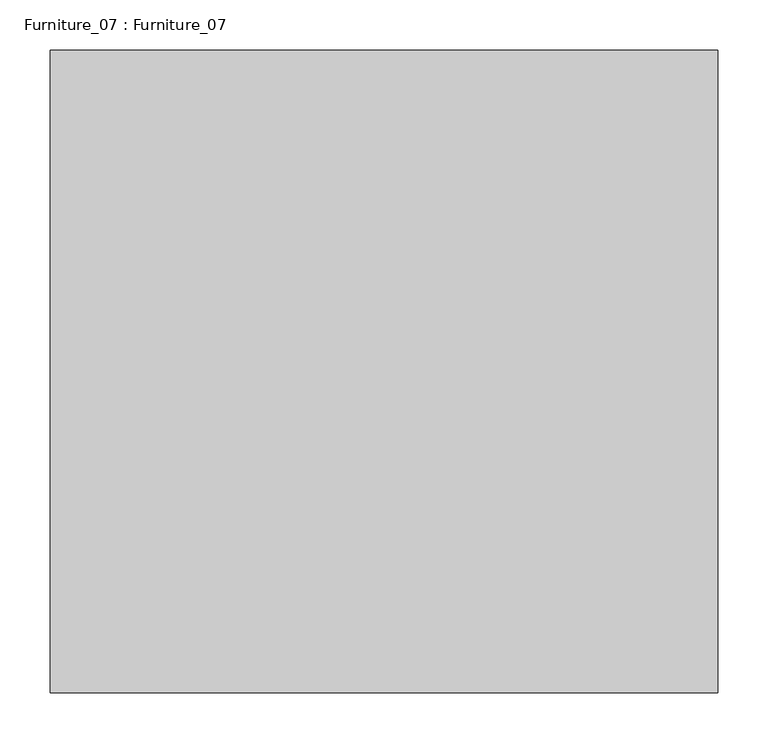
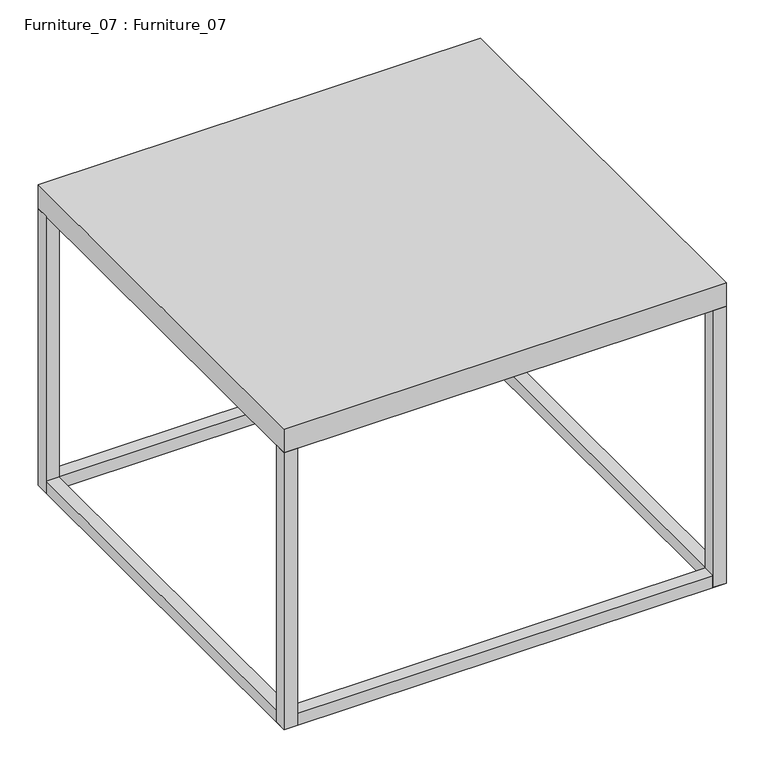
"""IFC4 building model written with IfcOpenShell, lengths in millimetres: furniture geometry, Furniture_07 : Furniture_07."""

from ifc_helpers import new_model, si_unit, frame, origin, origin_with_axes, place, context, project, spatial, polyline, outline, extrude, source, transform, mapped, element, save


def furniture_07_furniture_07_b3681a4d(model_context):
    return source(origin(), model_context, "Body", "SweptSolid", [
        extrude(outline(polyline([(-312.5, 320.0), (-312.5, 300.0), (-332.5, 300.0), (-332.5, 320.0), (-312.5, 320.0)])), origin_with_axes(), (0.0, 0.0, 1.0), 439.7246795),
        extrude(outline(polyline([(312.5, 320.0), (332.5, 320.0), (332.5, 300.0), (312.5, 300.0), (312.5, 320.0)])), origin_with_axes(), (0.0, 0.0, 1.0), 439.7246795),
        extrude(outline(polyline([(332.5, -300.0), (332.5, -320.0), (312.5, -320.0), (312.5, -300.0), (332.5, -300.0)])), origin_with_axes(), (0.0, 0.0, 1.0), 439.7246795),
        extrude(outline(polyline([(-332.5, -300.0), (-312.5, -300.0), (-312.5, -320.0), (-332.5, -320.0), (-332.5, -300.0)])), origin_with_axes(), (0.0, 0.0, 1.0), 439.7246795),
        extrude(outline(polyline([(332.5, 320.0), (332.5, -320.0), (-332.5, -320.0), (-332.5, 320.0), (332.5, 320.0)]), holes=[polyline([(312.5, 300.0), (-312.5, 300.0), (-312.5, -300.0), (312.5, -300.0), (312.5, 300.0)])]), origin_with_axes(), (0.0, 0.0, 1.0), 18.9938675),
        extrude(outline(polyline([(332.5, 320.0), (332.5, -320.0), (-332.5, -320.0), (-332.5, 320.0), (332.5, 320.0)])), frame((0.0, 0.0, 439.7246795), z_axis=(0.0, 0.0, 1.0), x_axis=(1.0, 0.0, 0.0)), (0.0, 0.0, 1.0), 37.7439025),
    ])


if __name__ == "__main__":
    model = new_model("IFC4")
    model_context = context("Model", 3, world=origin())
    ifc_project = project(units=[si_unit("LENGTHUNIT", "METRE", prefix="MILLI")], contexts=[model_context])
    site = spatial("IfcSite", under=ifc_project)
    building = spatial("IfcBuilding", under=site)
    placement = place(None, origin())
    furniture_07_furniture_07_shape = furniture_07_furniture_07_b3681a4d(model_context)
    element("IfcFurniture", 1, ObjectType="Furniture_07 : Furniture_07", at=placement, inside=building, context=model_context, shape_type="MappedRepresentation", body=[
        mapped(furniture_07_furniture_07_shape, transform((0.0, 0.0, 0.0), x_axis=(1.0, 0.0, 0.0), y_axis=(0.0, 1.0, 0.0), z_axis=(0.0, 0.0, 1.0))),
    ])
    save(model, "model.ifc")
